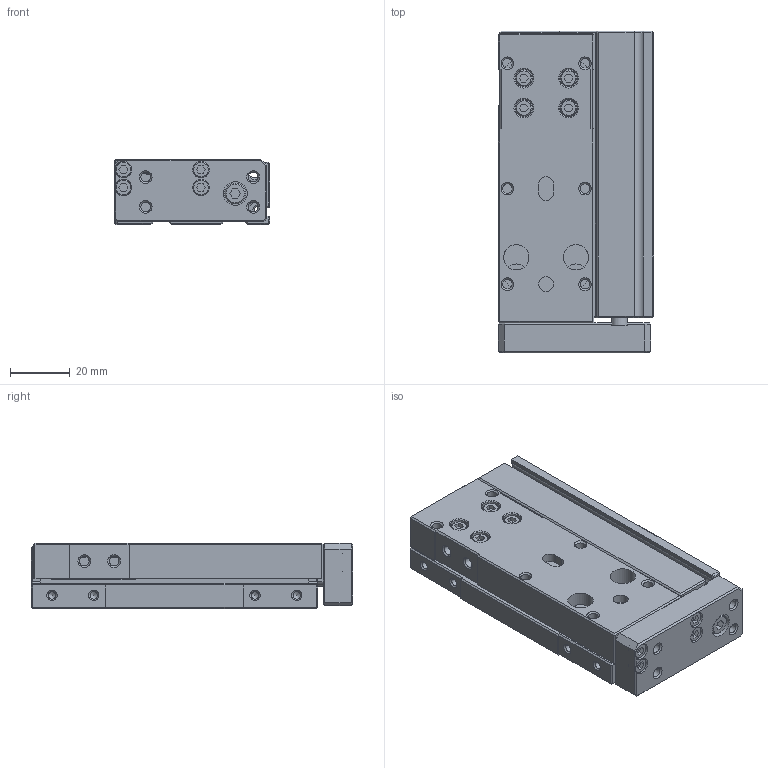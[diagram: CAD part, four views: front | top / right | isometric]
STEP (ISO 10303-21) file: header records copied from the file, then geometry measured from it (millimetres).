
FILE_DESCRIPTION((''),'2;1');
FILE_NAME('I:\3D電子目錄\氣缸\FMR(L)\FMR(L)\FMR(L)10\FMR10x50.stp','2007-10-15T15:57:32',('Administrator'),(''),'Autodesk Inventor 11','Autodesk Inventor 11','');
FILE_SCHEMA(('AUTOMOTIVE_DESIGN { 1 0 10303 214 1 1 1 1 }'));
Length unit declared in the file: millimetre
Products named in the file (1): FMR10x50
Bounding box: 52 x 107.8 x 22 mm (x, y, z)
Volume: 91296.7 mm3; surface area: 41168.4 mm2
Topology: 9 solids, 9 shells, 527 faces, 1243 edges, 774 vertices
Faces by surface type: plane 330, bspline 96, cylinder 53, cone 44, sphere 4
Full cylindrical faces by diameter (mm): 0.5 x2, 1.4 x4, 2 x2, 3.5 x2, 4 x1, 5 x4, 5.5 x8, 6 x3, 7 x1, 8 x1, 8.5 x4, 9 x1, 9.95 x2, 10 x2, 12 x4, 13 x2
Entity records: 14974 total; most frequent: CARTESIAN_POINT 3893, DIRECTION 2176, ORIENTED_EDGE 2080, EDGE_CURVE 1040, EDGE_LOOP 775, AXIS2_PLACEMENT_3D 731, VERTEX_POINT 725, VECTOR 714
